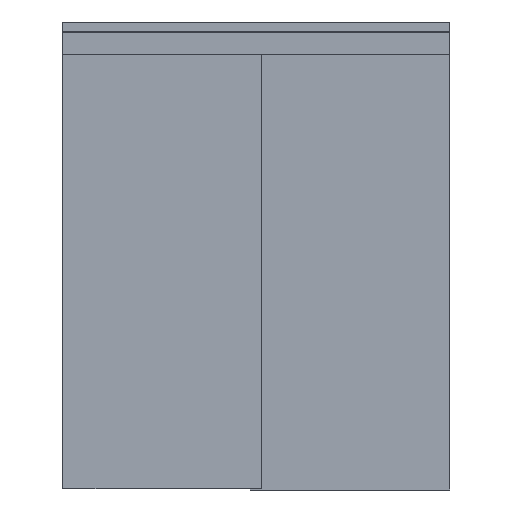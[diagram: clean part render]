
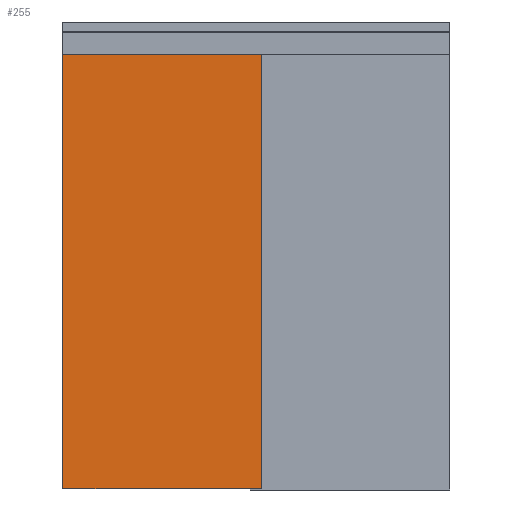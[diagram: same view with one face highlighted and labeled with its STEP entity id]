
A CAD part, front view. The second image highlights one B-rep face of the part: STEP entity #255.
In plain terms, the highlighted planar face has unit normal (0, -1, 0).
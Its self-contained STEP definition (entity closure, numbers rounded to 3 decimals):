
#255=ADVANCED_FACE('',(#675,#676,#677,#678,#679),#680,.F.);
#675=FACE_OUTER_BOUND('',#1281,.T.);
#676=FACE_BOUND('',#1282,.T.);
#677=FACE_BOUND('',#1283,.T.);
#678=FACE_BOUND('',#1284,.T.);
#679=FACE_BOUND('',#1285,.T.);
#680=PLANE('',#1286);
#1281=EDGE_LOOP('',(#1950,#1951,#1952,#1953,#1954,#1955,#1956,#1957,#1958,#1959,#1960,#1961));
#1282=EDGE_LOOP('',(#1962,#1963));
#1283=EDGE_LOOP('',(#1964,#1965));
#1284=EDGE_LOOP('',(#1966,#1967));
#1285=EDGE_LOOP('',(#1968,#1969));
#1286=AXIS2_PLACEMENT_3D('',#1970,#1971,#1972);
#1950=ORIENTED_EDGE('',*,*,#3616,.T.);
#1951=ORIENTED_EDGE('',*,*,#3625,.T.);
#1952=ORIENTED_EDGE('',*,*,#3621,.T.);
#1953=ORIENTED_EDGE('',*,*,#3651,.F.);
#1954=ORIENTED_EDGE('',*,*,#3632,.T.);
#1955=ORIENTED_EDGE('',*,*,#3641,.T.);
#1956=ORIENTED_EDGE('',*,*,#3637,.T.);
#1957=ORIENTED_EDGE('',*,*,#3648,.F.);
#1958=ORIENTED_EDGE('',*,*,#3657,.F.);
#1959=ORIENTED_EDGE('',*,*,#3658,.F.);
#1960=ORIENTED_EDGE('',*,*,#3659,.F.);
#1961=ORIENTED_EDGE('',*,*,#3653,.F.);
#1962=ORIENTED_EDGE('',*,*,#3643,.T.);
#1963=ORIENTED_EDGE('',*,*,#3591,.T.);
#1964=ORIENTED_EDGE('',*,*,#3627,.T.);
#1965=ORIENTED_EDGE('',*,*,#3596,.T.);
#1966=ORIENTED_EDGE('',*,*,#3611,.T.);
#1967=ORIENTED_EDGE('',*,*,#3601,.T.);
#1968=ORIENTED_EDGE('',*,*,#3608,.T.);
#1969=ORIENTED_EDGE('',*,*,#3606,.T.);
#1970=CARTESIAN_POINT('',(302.0,-5.,1925.));
#1971=DIRECTION('',(0.,1.0,0.));
#1972=DIRECTION('',(0.0,0.,1.0));
#3591=EDGE_CURVE('',#4287,#4291,#4293,.T.);
#3596=EDGE_CURVE('',#4296,#4300,#4302,.T.);
#3601=EDGE_CURVE('',#4305,#4309,#4311,.T.);
#3606=EDGE_CURVE('',#4314,#4318,#4320,.T.);
#3608=EDGE_CURVE('',#4318,#4314,#4322,.T.);
#3611=EDGE_CURVE('',#4309,#4305,#4325,.T.);
#3616=EDGE_CURVE('',#4333,#4331,#4334,.T.);
#3621=EDGE_CURVE('',#4342,#4340,#4343,.T.);
#3625=EDGE_CURVE('',#4331,#4342,#4347,.T.);
#3627=EDGE_CURVE('',#4300,#4296,#4349,.T.);
#3632=EDGE_CURVE('',#4357,#4355,#4358,.T.);
#3637=EDGE_CURVE('',#4366,#4364,#4367,.T.);
#3641=EDGE_CURVE('',#4355,#4366,#4371,.T.);
#3643=EDGE_CURVE('',#4291,#4287,#4373,.T.);
#3648=EDGE_CURVE('',#4378,#4364,#4380,.T.);
#3651=EDGE_CURVE('',#4357,#4340,#4383,.T.);
#3653=EDGE_CURVE('',#4333,#4385,#4386,.T.);
#3657=EDGE_CURVE('',#4391,#4378,#4392,.T.);
#3658=EDGE_CURVE('',#4393,#4391,#4394,.T.);
#3659=EDGE_CURVE('',#4385,#4393,#4395,.T.);
#4287=VERTEX_POINT('',#5323);
#4291=VERTEX_POINT('',#5328);
#4293=CIRCLE('',#5331,6.5);
#4296=VERTEX_POINT('',#5334);
#4300=VERTEX_POINT('',#5339);
#4302=CIRCLE('',#5342,6.5);
#4305=VERTEX_POINT('',#5345);
#4309=VERTEX_POINT('',#5350);
#4311=CIRCLE('',#5353,6.5);
#4314=VERTEX_POINT('',#5356);
#4318=VERTEX_POINT('',#5361);
#4320=CIRCLE('',#5364,6.5);
#4322=CIRCLE('',#5366,6.5);
#4325=CIRCLE('',#5369,6.5);
#4331=VERTEX_POINT('',#5376);
#4333=VERTEX_POINT('',#5379);
#4334=LINE('',#5380,#5381);
#4340=VERTEX_POINT('',#5389);
#4342=VERTEX_POINT('',#5392);
#4343=LINE('',#5393,#5394);
#4347=LINE('',#5400,#5401);
#4349=CIRCLE('',#5403,6.5);
#4355=VERTEX_POINT('',#5410);
#4357=VERTEX_POINT('',#5413);
#4358=LINE('',#5414,#5415);
#4364=VERTEX_POINT('',#5423);
#4366=VERTEX_POINT('',#5426);
#4367=LINE('',#5427,#5428);
#4371=LINE('',#5434,#5435);
#4373=CIRCLE('',#5437,6.5);
#4378=VERTEX_POINT('',#5443);
#4380=LINE('',#5446,#5447);
#4383=LINE('',#5451,#5452);
#4385=VERTEX_POINT('',#5454);
#4386=LINE('',#5455,#5456);
#4391=VERTEX_POINT('',#5463);
#4392=LINE('',#5464,#5465);
#4393=VERTEX_POINT('',#5466);
#4394=LINE('',#5467,#5468);
#4395=LINE('',#5469,#5470);
#5323=CARTESIAN_POINT('',(70.5,-5.,2273.));
#5328=CARTESIAN_POINT('',(83.5,-5.,2273.));
#5331=AXIS2_PLACEMENT_3D('',#6775,#6776,#6777);
#5334=CARTESIAN_POINT('',(868.5,-5.,2273.));
#5339=CARTESIAN_POINT('',(881.5,-5.,2273.));
#5342=AXIS2_PLACEMENT_3D('',#6783,#6784,#6785);
#5345=CARTESIAN_POINT('',(948.5,-5.,2273.));
#5350=CARTESIAN_POINT('',(961.5,-5.,2273.));
#5353=AXIS2_PLACEMENT_3D('',#6791,#6792,#6793);
#5356=CARTESIAN_POINT('',(150.5,-5.,2273.));
#5361=CARTESIAN_POINT('',(163.5,-5.,2273.));
#5364=AXIS2_PLACEMENT_3D('',#6799,#6800,#6801);
#5366=AXIS2_PLACEMENT_3D('',#6802,#6803,#6804);
#5369=AXIS2_PLACEMENT_3D('',#6808,#6809,#6810);
#5376=CARTESIAN_POINT('',(936.0,-5.,2279.));
#5379=CARTESIAN_POINT('',(936.0,-5.,2293.));
#5380=CARTESIAN_POINT('',(936.0,-5.,2117.5));
#5381=VECTOR('',#6816,1.0);
#5389=CARTESIAN_POINT('',(894.0,-5.,2293.));
#5392=CARTESIAN_POINT('',(894.0,-5.,2279.));
#5393=CARTESIAN_POINT('',(894.0,-5.,2110.5));
#5394=VECTOR('',#6820,1.0);
#5400=CARTESIAN_POINT('',(619.0,-5.,2279.));
#5401=VECTOR('',#6823,1.0);
#5403=AXIS2_PLACEMENT_3D('',#6824,#6825,#6826);
#5410=CARTESIAN_POINT('',(138.0,-5.,2279.));
#5413=CARTESIAN_POINT('',(138.0,-5.,2293.));
#5414=CARTESIAN_POINT('',(138.0,-5.,2117.5));
#5415=VECTOR('',#6832,1.0);
#5423=CARTESIAN_POINT('',(96.,-5.,2293.));
#5426=CARTESIAN_POINT('',(96.,-5.,2279.));
#5427=CARTESIAN_POINT('',(96.0,-5.,2110.5));
#5428=VECTOR('',#6836,1.0);
#5434=CARTESIAN_POINT('',(220.0,-5.,2279.));
#5435=VECTOR('',#6839,1.0);
#5437=AXIS2_PLACEMENT_3D('',#6840,#6841,#6842);
#5443=CARTESIAN_POINT('',(2.,-5.,2293.));
#5446=CARTESIAN_POINT('',(2.,-5.,2293.));
#5447=VECTOR('',#6848,600.0);
#5451=CARTESIAN_POINT('',(2.,-5.,2293.));
#5452=VECTOR('',#6850,600.0);
#5454=CARTESIAN_POINT('',(1030.0,-5.,2293.));
#5455=CARTESIAN_POINT('',(2.,-5.,2293.));
#5456=VECTOR('',#6851,600.0);
#5463=CARTESIAN_POINT('',(2.,-5.,7.));
#5464=CARTESIAN_POINT('',(2.,-5.,1535.));
#5465=VECTOR('',#6854,780.);
#5466=CARTESIAN_POINT('',(1030.0,-5.,7.0));
#5467=CARTESIAN_POINT('',(602.0,-5.,7.0));
#5468=VECTOR('',#6855,600.0);
#5469=CARTESIAN_POINT('',(1030.0,-5.,2315.));
#5470=VECTOR('',#6856,780.);
#6775=CARTESIAN_POINT('',(77.,-5.,2273.));
#6776=DIRECTION('',(0.0,1.0,0.));
#6777=DIRECTION('',(-1.0,0.,0.));
#6783=CARTESIAN_POINT('',(875.0,-5.,2273.));
#6784=DIRECTION('',(0.0,1.0,0.));
#6785=DIRECTION('',(-1.0,0.,0.));
#6791=CARTESIAN_POINT('',(955.0,-5.,2273.));
#6792=DIRECTION('',(0.0,1.0,0.));
#6793=DIRECTION('',(-1.0,0.,0.));
#6799=CARTESIAN_POINT('',(157.0,-5.,2273.));
#6800=DIRECTION('',(0.0,1.0,0.));
#6801=DIRECTION('',(-1.0,0.,0.));
#6802=CARTESIAN_POINT('',(157.0,-5.,2273.));
#6803=DIRECTION('',(0.0,1.0,0.));
#6804=DIRECTION('',(-1.0,0.,0.));
#6808=CARTESIAN_POINT('',(955.0,-5.,2273.));
#6809=DIRECTION('',(0.0,1.0,0.));
#6810=DIRECTION('',(-1.0,0.,0.));
#6816=DIRECTION('',(0.0,0.,-1.0));
#6820=DIRECTION('',(0.0,0.,1.0));
#6823=DIRECTION('',(-1.0,0.,0.0));
#6824=CARTESIAN_POINT('',(875.0,-5.,2273.));
#6825=DIRECTION('',(0.0,1.0,0.));
#6826=DIRECTION('',(-1.0,0.,0.));
#6832=DIRECTION('',(0.0,0.,-1.0));
#6836=DIRECTION('',(0.0,0.,1.0));
#6839=DIRECTION('',(-1.0,0.,0.0));
#6840=CARTESIAN_POINT('',(77.,-5.,2273.));
#6841=DIRECTION('',(0.0,1.0,0.));
#6842=DIRECTION('',(-1.0,0.,0.));
#6848=DIRECTION('',(1.0,0.,0.));
#6850=DIRECTION('',(1.0,0.,0.));
#6851=DIRECTION('',(1.0,0.,0.));
#6854=DIRECTION('',(0.0,0.,1.0));
#6855=DIRECTION('',(-1.0,0.,0.));
#6856=DIRECTION('',(0.0,0.,-1.0));
